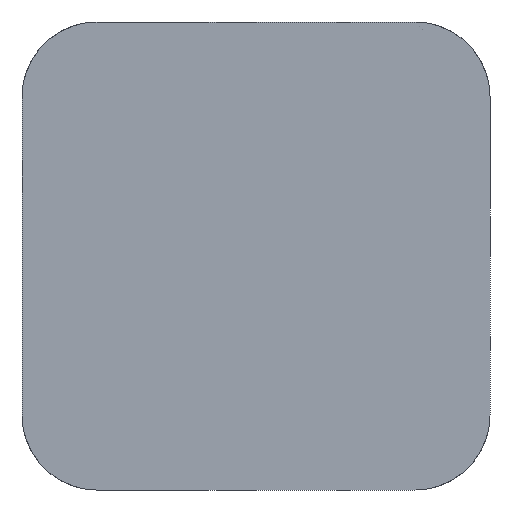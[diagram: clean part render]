
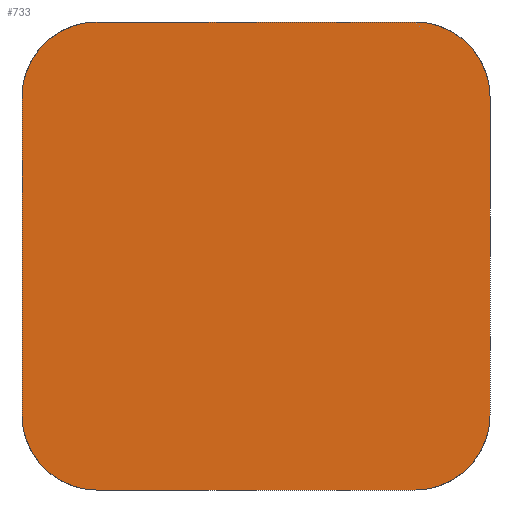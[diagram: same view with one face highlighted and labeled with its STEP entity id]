
A CAD part, front view. The second image highlights one B-rep face of the part: STEP entity #733.
In plain terms, the highlighted planar face has unit normal (0, -1, 0).
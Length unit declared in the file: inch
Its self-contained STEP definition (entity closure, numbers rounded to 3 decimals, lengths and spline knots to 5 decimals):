
#23=PLANE('',#830);
#97=FACE_OUTER_BOUND('',#143,.T.);
#143=EDGE_LOOP('',(#615,#616,#617,#618,#619,#620,#621,#622));
#190=LINE('',#1620,#238);
#191=LINE('',#1624,#239);
#192=LINE('',#1628,#240);
#193=LINE('',#1631,#241);
#238=VECTOR('',#1030,0.3937);
#239=VECTOR('',#1033,0.3937);
#240=VECTOR('',#1036,0.3937);
#241=VECTOR('',#1039,0.3937);
#281=CIRCLE('',#829,0.125);
#282=CIRCLE('',#831,0.125);
#283=CIRCLE('',#832,0.125);
#284=CIRCLE('',#833,0.125);
#341=VERTEX_POINT('',#1613);
#342=VERTEX_POINT('',#1615);
#343=VERTEX_POINT('',#1619);
#344=VERTEX_POINT('',#1621);
#345=VERTEX_POINT('',#1623);
#346=VERTEX_POINT('',#1625);
#347=VERTEX_POINT('',#1627);
#348=VERTEX_POINT('',#1629);
#441=EDGE_CURVE('',#341,#342,#281,.T.);
#443=EDGE_CURVE('',#341,#343,#190,.T.);
#444=EDGE_CURVE('',#344,#343,#282,.T.);
#445=EDGE_CURVE('',#344,#345,#191,.T.);
#446=EDGE_CURVE('',#346,#345,#283,.T.);
#447=EDGE_CURVE('',#346,#347,#192,.T.);
#448=EDGE_CURVE('',#348,#347,#284,.T.);
#449=EDGE_CURVE('',#348,#342,#193,.T.);
#615=ORIENTED_EDGE('',*,*,#441,.F.);
#616=ORIENTED_EDGE('',*,*,#443,.T.);
#617=ORIENTED_EDGE('',*,*,#444,.F.);
#618=ORIENTED_EDGE('',*,*,#445,.T.);
#619=ORIENTED_EDGE('',*,*,#446,.F.);
#620=ORIENTED_EDGE('',*,*,#447,.T.);
#621=ORIENTED_EDGE('',*,*,#448,.F.);
#622=ORIENTED_EDGE('',*,*,#449,.T.);
#733=ADVANCED_FACE('',(#97),#23,.F.);
#829=AXIS2_PLACEMENT_3D('',#1616,#1025,#1026);
#830=AXIS2_PLACEMENT_3D('',#1618,#1028,#1029);
#831=AXIS2_PLACEMENT_3D('',#1622,#1031,#1032);
#832=AXIS2_PLACEMENT_3D('',#1626,#1034,#1035);
#833=AXIS2_PLACEMENT_3D('',#1630,#1037,#1038);
#1025=DIRECTION('center_axis',(0.,1.,0.));
#1026=DIRECTION('ref_axis',(0.707,0.,-0.707));
#1028=DIRECTION('center_axis',(0.,1.,0.));
#1029=DIRECTION('ref_axis',(1.,0.,0.));
#1030=DIRECTION('',(0.,0.,1.));
#1031=DIRECTION('center_axis',(0.,1.,0.));
#1032=DIRECTION('ref_axis',(0.707,0.,0.707));
#1033=DIRECTION('',(-1.,0.,0.));
#1034=DIRECTION('center_axis',(0.,1.,0.));
#1035=DIRECTION('ref_axis',(-0.707,0.,0.707));
#1036=DIRECTION('',(0.,0.,-1.));
#1037=DIRECTION('center_axis',(0.,1.,0.));
#1038=DIRECTION('ref_axis',(-0.707,0.,-0.707));
#1039=DIRECTION('',(1.,0.,0.));
#1613=CARTESIAN_POINT('',(0.39,0.,-0.265));
#1615=CARTESIAN_POINT('',(0.265,0.,-0.39));
#1616=CARTESIAN_POINT('Origin',(0.265,0.,-0.265));
#1618=CARTESIAN_POINT('Origin',(0.,0.,0.));
#1619=CARTESIAN_POINT('',(0.39,0.,0.265));
#1620=CARTESIAN_POINT('',(0.39,0.,-0.39));
#1621=CARTESIAN_POINT('',(0.265,0.,0.39));
#1622=CARTESIAN_POINT('Origin',(0.265,0.,0.265));
#1623=CARTESIAN_POINT('',(-0.265,0.,0.39));
#1624=CARTESIAN_POINT('',(0.39,0.,0.39));
#1625=CARTESIAN_POINT('',(-0.39,0.,0.265));
#1626=CARTESIAN_POINT('Origin',(-0.265,0.,0.265));
#1627=CARTESIAN_POINT('',(-0.39,0.,-0.265));
#1628=CARTESIAN_POINT('',(-0.39,0.,0.39));
#1629=CARTESIAN_POINT('',(-0.265,0.,-0.39));
#1630=CARTESIAN_POINT('Origin',(-0.265,0.,-0.265));
#1631=CARTESIAN_POINT('',(-0.39,0.,-0.39));
